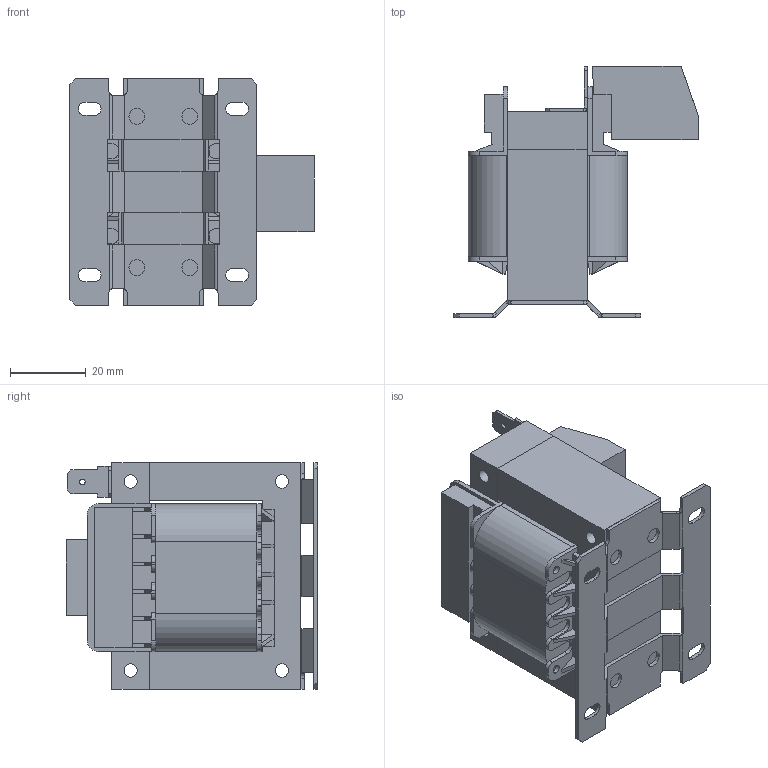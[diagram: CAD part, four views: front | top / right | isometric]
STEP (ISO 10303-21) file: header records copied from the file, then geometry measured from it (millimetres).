
FILE_DESCRIPTION (( 'STEP AP214' ), '1' );
FILE_NAME ('PMO-004.STEP', '2015-04-28T11:44:21', ( 'EDV' ), ( 'Microsoft' ), 'SwSTEP 2.0', 'SolidWorks 2014', '' );
FILE_SCHEMA (( 'AUTOMOTIVE_DESIGN' ));
Length unit declared in the file: millimetre
Products named in the file (7): PMO-004; Fußplatte EI60-21; Wickel EI60_21AK; EI60-21AK; +2220-0010; TRK 2,5; EI60-21
Assembly tree (6 placements, depth 2):
  PMO-004
    EI60-21
    TRK 2,5
    +2220-0010
    EI60-21AK
    Wickel EI60_21AK
    Fußplatte EI60-21
Bounding box: 64.65 x 66.55 x 60 mm (x, y, z)
Volume: 94786.6 mm3; surface area: 49063.8 mm2
Topology: 7 solids, 7 shells, 731 faces, 2046 edges, 1336 vertices
Faces by surface type: plane 530, cylinder 128, bspline 73
Full cylindrical faces by diameter (mm): 1.5 x1, 2.3 x4, 2.82 x1, 3.5 x4, 4.2 x4, 4.805 x1, 5.205 x1
Entity records: 29816 total; most frequent: CARTESIAN_POINT 8757, ORIENTED_EDGE 4052, DIRECTION 3462, EDGE_CURVE 2026, VECTOR 1632, LINE 1632, VERTEX_POINT 1332, AXIS2_PLACEMENT_3D 915
